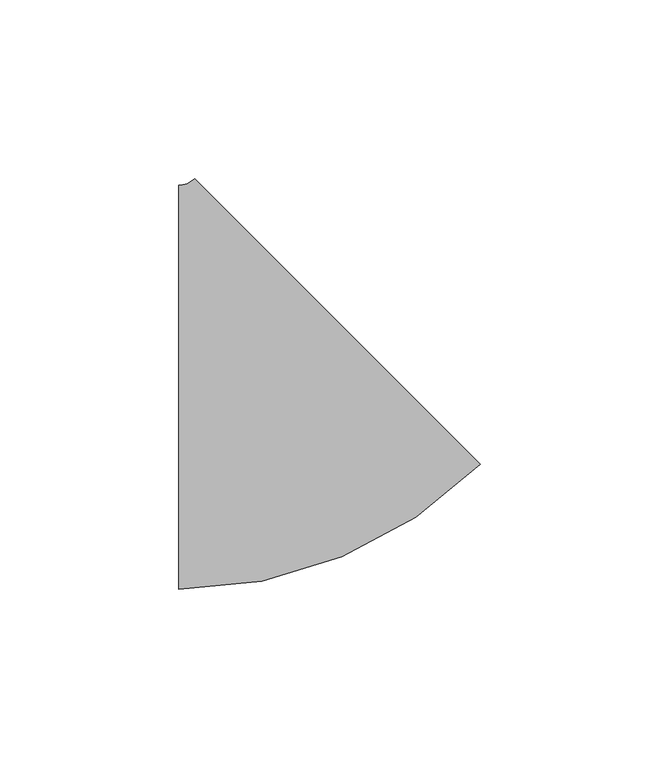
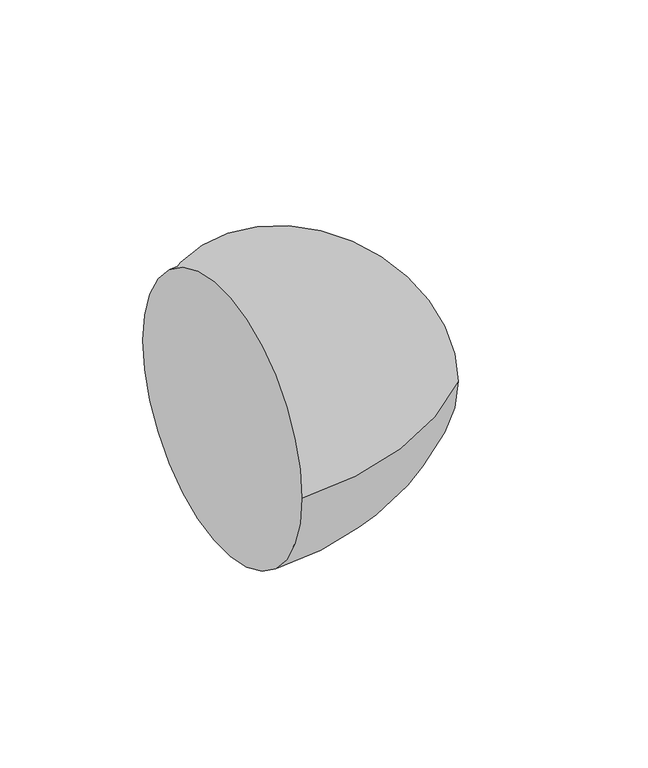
"""IFC4 building model written with IfcOpenShell, lengths in millimetres: pipe fitting geometry, M_Codo - Genérico : Estándar."""

from ifc_helpers import new_model, si_unit, point, frame, origin, place, context, project, spatial, circle_curve, ellipse_curve, trimmed, source, transform, mapped, element, save
from ifc_brep_helpers import plane_surface, revolved_surface, advanced_brep


def pipe_fitting_9d402f5c(model_context):
    return source(origin(), model_context, "Body", "AdvancedBrep", [
        advanced_brep(
        [(-26.0682686, -56.5875, 0.0), (-26.0682686, 56.5875, 0.0), (58.445695, -21.5824124, 0.0), (-21.5782986, 58.4472139, 0.0)],
        [
            (0, 1, circle_curve(frame((-26.0682686, 0.0, 0.0), z_axis=(-1.0, 0.0, 0.0), x_axis=(0.0, 1.0, 0.0)), 56.5875)),
            (1, 0, circle_curve(frame((-26.0682686, 0.0, 0.0), z_axis=(-1.0, 0.0, 0.0), x_axis=(0.0, 1.0, 0.0)), 56.5875)),
            (2, 3, circle_curve(frame((18.4336982, 18.4324008, 0.0), z_axis=(0.7071316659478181, 0.7070818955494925, 0.0), x_axis=(-0.7070818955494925, 0.7071316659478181, 0.0)), 56.5875)),
            (3, 2, circle_curve(frame((18.4336982, 18.4324008, 0.0), z_axis=(0.7071316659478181, 0.7070818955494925, 0.0), x_axis=(-0.7070818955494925, 0.7071316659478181, 0.0)), 56.5875)),
            (3, 1, circle_curve(frame((-26.0682686, 62.9375, 0.0), z_axis=(0.0, 0.0, -1.0), x_axis=(0.0, -1.0, 0.0)), 6.35)),
            (0, 2, circle_curve(frame((-26.0682686, 62.9375, 0.0), z_axis=(0.0, 0.0, 1.0), x_axis=(0.0, -1.0, 0.0)), 119.525)),
        ],
        [
            plane_surface(frame((-26.0682686, 0.0, 0.0), z_axis=(-1.0, 0.0, 0.0), x_axis=(0.0, 0.0, 1.0))),
            plane_surface(frame((18.4336982, 18.4324008, 0.0), z_axis=(0.7071316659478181, 0.7070818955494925, 0.0), x_axis=(0.0, 0.0, 1.0))),
            revolved_surface(trimmed(ellipse_curve(frame((-26.0682686, 0.0, 0.0), z_axis=(-1.0, 0.0, 0.0), x_axis=(0.0, 1.0, 0.0)), 56.5875, 56.5875), [point((-26.0682686, -56.5875, 0.0))], [point((-26.0682686, 56.5875, 0.0))], True, "CARTESIAN"), (-26.0682686, 62.9375, 0.0), (0.0, 0.0, 1.0)),
            revolved_surface(trimmed(ellipse_curve(frame((-26.0682686, 0.0, 0.0), z_axis=(-1.0, 0.0, 0.0), x_axis=(0.0, 1.0, 0.0)), 56.5875, 56.5875), [point((-26.0682686, 56.5875, 0.0))], [point((-26.0682686, -56.5875, 0.0))], True, "CARTESIAN"), (-26.0682686, 62.9375, 0.0), (0.0, 0.0, 1.0)),
        ],
        [
            (0, [[1, 2]]),
            (1, [[3, 4]]),
            (2, [[5, -1, 6, -4]]),
            (3, [[-6, -2, -5, -3]]),
        ],
    ),
    ])


if __name__ == "__main__":
    model = new_model("IFC4")
    model_context = context("Model", 3, world=origin())
    ifc_project = project(units=[si_unit("LENGTHUNIT", "METRE", prefix="MILLI")], contexts=[model_context])
    site = spatial("IfcSite", under=ifc_project)
    building = spatial("IfcBuilding", under=site)
    placement = place(None, origin())
    pipe_fitting_shape = pipe_fitting_9d402f5c(model_context)
    element("IfcPipeFitting", 1, ObjectType="M_Codo - Genérico : Estándar", at=placement, inside=building, context=model_context, shape_type="MappedRepresentation", body=[
        mapped(pipe_fitting_shape, transform((0.0, 0.0, 0.0), x_axis=(1.0, 0.0, 0.0), y_axis=(0.0, 1.0, 0.0), z_axis=(0.0, 0.0, 1.0))),
    ])
    save(model, "model.ifc")
